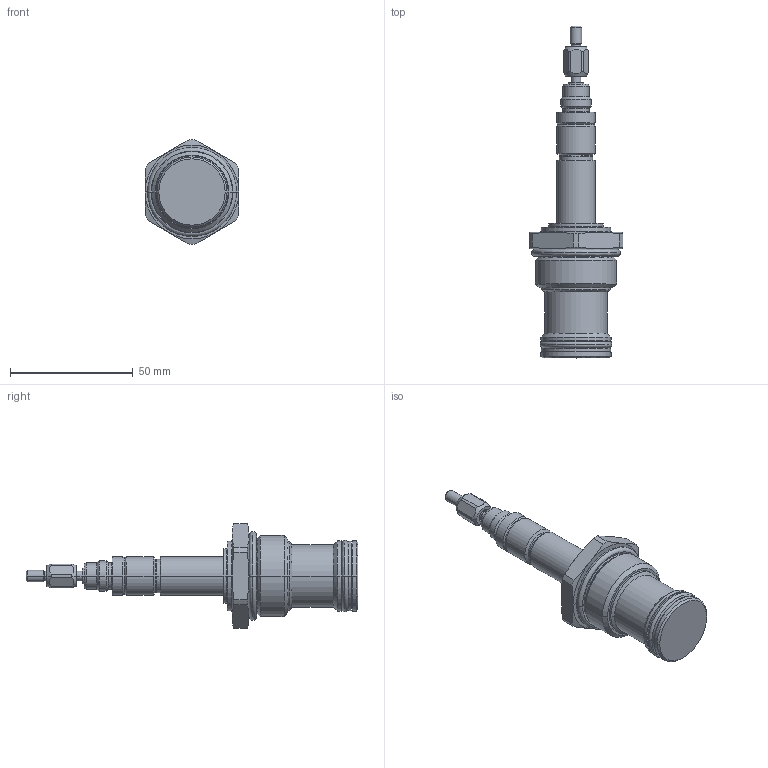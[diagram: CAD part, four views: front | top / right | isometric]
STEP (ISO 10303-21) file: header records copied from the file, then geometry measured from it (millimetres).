
FILE_DESCRIPTION((''),'2;1');
FILE_NAME('5060010_SW0002','2009-03-03T',('JCS'),(''),'PRO/ENGINEER BY PARAMETRIC TECHNOLOGY CORPORATION, 2008010','PRO/ENGINEER BY PARAMETRIC TECHNOLOGY CORPORATION, 2008010','');
FILE_SCHEMA(('CONFIG_CONTROL_DESIGN'));
Length unit declared in the file: inch
Products named in the file (1): 5060010_SW0002
Bounding box: 38.1 x 135.2 x 42.66 mm (x, y, z)
Volume: 50544.7 mm3; surface area: 13630.4 mm2
Topology: 3 solids, 3 shells, 190 faces, 402 edges, 228 vertices
Faces by surface type: cone 68, cylinder 62, plane 28, torus 16, revolution 16
Entity records: 5732 total; most frequent: CARTESIAN_POINT 1566, DIRECTION 934, ORIENTED_EDGE 804, EDGE_CURVE 402, AXIS2_PLACEMENT_3D 394, VERTEX_POINT 228, CIRCLE 220, EDGE_LOOP 204
